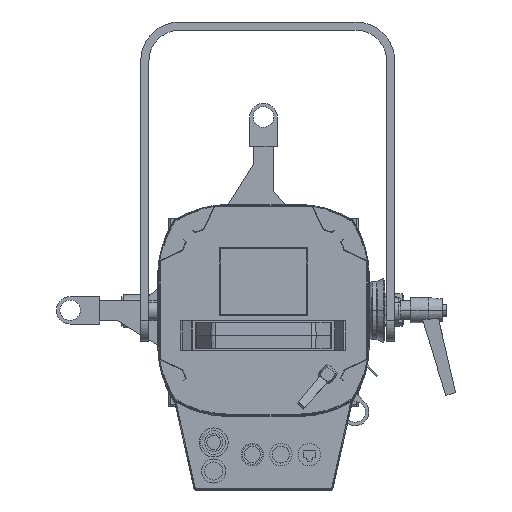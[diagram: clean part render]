
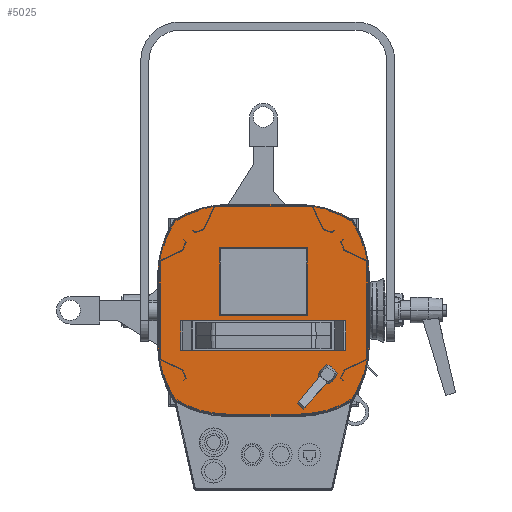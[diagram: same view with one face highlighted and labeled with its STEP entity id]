
A CAD part, top view. The second image highlights one B-rep face of the part: STEP entity #5025.
In plain terms, the highlighted planar face has unit normal (0, 0, 1).
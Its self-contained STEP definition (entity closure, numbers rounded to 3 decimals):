
#125 = EDGE_CURVE ( 'NONE', #6798, #19602, #24924, .T. ) ;
#634 = EDGE_CURVE ( 'NONE', #26735, #6798, #22968, .T. ) ;
#648 = VERTEX_POINT ( 'NONE', #13506 ) ;
#774 = CARTESIAN_POINT ( 'NONE',  ( 33., -103.8, 227.1 ) ) ;
#776 = LINE ( 'NONE', #19547, #20516 ) ;
#869 = DIRECTION ( 'NONE',  ( 0., 0., -1. ) ) ;
#976 = CIRCLE ( 'NONE', #22160, 103.8 ) ;
#1429 = DIRECTION ( 'NONE',  ( 0., -1., 0. ) ) ;
#1607 = ORIENTED_EDGE ( 'NONE', *, *, #10731, .F. ) ;
#1683 = ORIENTED_EDGE ( 'NONE', *, *, #634, .F. ) ;
#2166 = VECTOR ( 'NONE', #29851, 1000. ) ;
#2339 = CARTESIAN_POINT ( 'NONE',  ( -103.8, -33., 227.1 ) ) ;
#2901 = EDGE_CURVE ( 'NONE', #7756, #648, #28039, .T. ) ;
#3372 = CARTESIAN_POINT ( 'NONE',  ( -42.5, 14., 227.1 ) ) ;
#3452 = EDGE_LOOP ( 'NONE', ( #23249, #18070, #29393, #26924 ) ) ;
#3803 = AXIS2_PLACEMENT_3D ( 'NONE', #21998, #869, #21678 ) ;
#4211 = VERTEX_POINT ( 'NONE', #21260 ) ;
#4454 = DIRECTION ( 'NONE',  ( 0., 0., -1. ) ) ;
#4785 = CARTESIAN_POINT ( 'NONE',  ( 103.8, -33., 227.1 ) ) ;
#4834 = VERTEX_POINT ( 'NONE', #16353 ) ;
#5025 = ADVANCED_FACE ( 'NONE', ( #12802, #8316 ), #26692, .F. ) ;
#5301 = CARTESIAN_POINT ( 'NONE',  ( -88.019, 88.019, 227.1 ) ) ;
#5421 = VECTOR ( 'NONE', #21024, 1000. ) ;
#5491 = DIRECTION ( 'NONE',  ( -1., 0., 0. ) ) ;
#6006 = DIRECTION ( 'NONE',  ( 0., 0., -1. ) ) ;
#6049 = CARTESIAN_POINT ( 'NONE',  ( 42.5, -4., 227.1 ) ) ;
#6180 = DIRECTION ( 'NONE',  ( 1., 0., 0. ) ) ;
#6619 = CARTESIAN_POINT ( 'NONE',  ( 0., 33., 227.1 ) ) ;
#6798 = VERTEX_POINT ( 'NONE', #25389 ) ;
#6947 = CARTESIAN_POINT ( 'NONE',  ( 33., 103.8, 227.1 ) ) ;
#7488 = DIRECTION ( 'NONE',  ( 0., 0., -1. ) ) ;
#7756 = VERTEX_POINT ( 'NONE', #28788 ) ;
#7869 = CARTESIAN_POINT ( 'NONE',  ( 42.5, 60., 227.1 ) ) ;
#8316 = FACE_OUTER_BOUND ( 'NONE', #10381, .T. ) ;
#8370 = ORIENTED_EDGE ( 'NONE', *, *, #26615, .F. ) ;
#8473 = VECTOR ( 'NONE', #28736, 1000. ) ;
#8974 = DIRECTION ( 'NONE',  ( 0., 0., -1. ) ) ;
#9328 = CARTESIAN_POINT ( 'NONE',  ( -42.5, -4., 227.1 ) ) ;
#9378 = DIRECTION ( 'NONE',  ( 1., 0., 0. ) ) ;
#9402 = VECTOR ( 'NONE', #1429, 1000. ) ;
#10024 = CARTESIAN_POINT ( 'NONE',  ( -33., 103.8, 227.1 ) ) ;
#10185 = CIRCLE ( 'NONE', #3803, 103.8 ) ;
#10381 = EDGE_LOOP ( 'NONE', ( #1683, #19958, #29205, #12519, #1607, #8370, #20967, #19308, #24341, #16513, #19426, #29153 ) ) ;
#10731 = EDGE_CURVE ( 'NONE', #15462, #4834, #25480, .T. ) ;
#11126 = AXIS2_PLACEMENT_3D ( 'NONE', #19198, #7488, #26322 ) ;
#12519 = ORIENTED_EDGE ( 'NONE', *, *, #26031, .F. ) ;
#12776 = DIRECTION ( 'NONE',  ( 0., -1., 0. ) ) ;
#12802 = FACE_BOUND ( 'NONE', #3452, .T. ) ;
#12953 = AXIS2_PLACEMENT_3D ( 'NONE', #20507, #29624, #6180 ) ;
#13090 = EDGE_CURVE ( 'NONE', #18030, #24123, #976, .T. ) ;
#13365 = EDGE_CURVE ( 'NONE', #27970, #26407, #25518, .T. ) ;
#13399 = AXIS2_PLACEMENT_3D ( 'NONE', #14754, #19203, #5491 ) ;
#13506 = CARTESIAN_POINT ( 'NONE',  ( 103.8, 33., 227.1 ) ) ;
#13712 = EDGE_CURVE ( 'NONE', #4211, #18030, #10185, .T. ) ;
#13921 = DIRECTION ( 'NONE',  ( 1., 0., 0. ) ) ;
#14754 = CARTESIAN_POINT ( 'NONE',  ( 33., 0., 227.1 ) ) ;
#14882 = CARTESIAN_POINT ( 'NONE',  ( 0., 33., 227.1 ) ) ;
#15290 = AXIS2_PLACEMENT_3D ( 'NONE', #15568, #6006, #17415 ) ;
#15355 = LINE ( 'NONE', #20426, #2166 ) ;
#15462 = VERTEX_POINT ( 'NONE', #10024 ) ;
#15568 = CARTESIAN_POINT ( 'NONE',  ( 0., -33., 227.1 ) ) ;
#16026 = DIRECTION ( 'NONE',  ( -1., 0., 0. ) ) ;
#16088 = VERTEX_POINT ( 'NONE', #23818 ) ;
#16353 = CARTESIAN_POINT ( 'NONE',  ( 33., 103.8, 227.1 ) ) ;
#16513 = ORIENTED_EDGE ( 'NONE', *, *, #13712, .F. ) ;
#17134 = AXIS2_PLACEMENT_3D ( 'NONE', #6619, #22986, #16026 ) ;
#17140 = VECTOR ( 'NONE', #30109, 1000. ) ;
#17253 = DIRECTION ( 'NONE',  ( 0., 1., 0. ) ) ;
#17415 = DIRECTION ( 'NONE',  ( -1., 0., 0. ) ) ;
#17507 = VECTOR ( 'NONE', #18651, 1000. ) ;
#17877 = VERTEX_POINT ( 'NONE', #6049 ) ;
#17888 = LINE ( 'NONE', #23002, #9402 ) ;
#17996 = LINE ( 'NONE', #3372, #19038 ) ;
#18030 = VERTEX_POINT ( 'NONE', #28845 ) ;
#18070 = ORIENTED_EDGE ( 'NONE', *, *, #18966, .F. ) ;
#18092 = VERTEX_POINT ( 'NONE', #7869 ) ;
#18651 = DIRECTION ( 'NONE',  ( 1., 0., 0. ) ) ;
#18817 = CARTESIAN_POINT ( 'NONE',  ( 0., -33., 227.1 ) ) ;
#18966 = EDGE_CURVE ( 'NONE', #18092, #16088, #15355, .T. ) ;
#19038 = VECTOR ( 'NONE', #12776, 1000. ) ;
#19198 = CARTESIAN_POINT ( 'NONE',  ( 0., -33., 227.1 ) ) ;
#19203 = DIRECTION ( 'NONE',  ( 0., 0., -1. ) ) ;
#19308 = ORIENTED_EDGE ( 'NONE', *, *, #23079, .F. ) ;
#19315 = LINE ( 'NONE', #22547, #8473 ) ;
#19426 = ORIENTED_EDGE ( 'NONE', *, *, #26457, .F. ) ;
#19547 = CARTESIAN_POINT ( 'NONE',  ( -103.8, -33., 227.1 ) ) ;
#19602 = VERTEX_POINT ( 'NONE', #774 ) ;
#19958 = ORIENTED_EDGE ( 'NONE', *, *, #24003, .F. ) ;
#20426 = CARTESIAN_POINT ( 'NONE',  ( 2.5, 60., 227.1 ) ) ;
#20507 = CARTESIAN_POINT ( 'NONE',  ( -33., 0., 227.1 ) ) ;
#20516 = VECTOR ( 'NONE', #17253, 1000. ) ;
#20695 = LINE ( 'NONE', #28101, #17140 ) ;
#20842 = CARTESIAN_POINT ( 'NONE',  ( 33., 0., 227.1 ) ) ;
#20967 = ORIENTED_EDGE ( 'NONE', *, *, #13365, .F. ) ;
#21024 = DIRECTION ( 'NONE',  ( 0., 1., 0. ) ) ;
#21260 = CARTESIAN_POINT ( 'NONE',  ( -33., -103.8, 227.1 ) ) ;
#21468 = DIRECTION ( 'NONE',  ( 0., 0., -1. ) ) ;
#21678 = DIRECTION ( 'NONE',  ( -1., 0., 0. ) ) ;
#21942 = EDGE_CURVE ( 'NONE', #16088, #23703, #17996, .T. ) ;
#21998 = CARTESIAN_POINT ( 'NONE',  ( -33., 0., 227.1 ) ) ;
#22160 = AXIS2_PLACEMENT_3D ( 'NONE', #18817, #21468, #13921 ) ;
#22547 = CARTESIAN_POINT ( 'NONE',  ( 33., -103.8, 227.1 ) ) ;
#22968 = CIRCLE ( 'NONE', #11126, 103.8 ) ;
#22986 = DIRECTION ( 'NONE',  ( 0., 0., -1. ) ) ;
#23002 = CARTESIAN_POINT ( 'NONE',  ( 103.8, -33., 227.1 ) ) ;
#23079 = EDGE_CURVE ( 'NONE', #24123, #27970, #776, .T. ) ;
#23249 = ORIENTED_EDGE ( 'NONE', *, *, #21942, .F. ) ;
#23703 = VERTEX_POINT ( 'NONE', #9328 ) ;
#23818 = CARTESIAN_POINT ( 'NONE',  ( -42.5, 60., 227.1 ) ) ;
#24003 = EDGE_CURVE ( 'NONE', #648, #26735, #17888, .T. ) ;
#24123 = VERTEX_POINT ( 'NONE', #2339 ) ;
#24341 = ORIENTED_EDGE ( 'NONE', *, *, #13090, .F. ) ;
#24924 = CIRCLE ( 'NONE', #29339, 103.8 ) ;
#25389 = CARTESIAN_POINT ( 'NONE',  ( 88.019, -88.019, 227.1 ) ) ;
#25480 = LINE ( 'NONE', #6947, #17507 ) ;
#25518 = CIRCLE ( 'NONE', #17134, 103.8 ) ;
#25739 = CIRCLE ( 'NONE', #12953, 103.8 ) ;
#26031 = EDGE_CURVE ( 'NONE', #4834, #7756, #28155, .T. ) ;
#26322 = DIRECTION ( 'NONE',  ( -1., 0., 0. ) ) ;
#26407 = VERTEX_POINT ( 'NONE', #5301 ) ;
#26457 = EDGE_CURVE ( 'NONE', #19602, #4211, #19315, .T. ) ;
#26615 = EDGE_CURVE ( 'NONE', #26407, #15462, #25739, .T. ) ;
#26692 = PLANE ( 'NONE',  #15290 ) ;
#26735 = VERTEX_POINT ( 'NONE', #4785 ) ;
#26924 = ORIENTED_EDGE ( 'NONE', *, *, #29255, .F. ) ;
#27941 = DIRECTION ( 'NONE',  ( 1., 0., 0. ) ) ;
#27962 = LINE ( 'NONE', #29960, #5421 ) ;
#27970 = VERTEX_POINT ( 'NONE', #28863 ) ;
#28039 = CIRCLE ( 'NONE', #30510, 103.8 ) ;
#28101 = CARTESIAN_POINT ( 'NONE',  ( -42.5, -4., 227.1 ) ) ;
#28155 = CIRCLE ( 'NONE', #13399, 103.8 ) ;
#28736 = DIRECTION ( 'NONE',  ( -1., 0., 0. ) ) ;
#28788 = CARTESIAN_POINT ( 'NONE',  ( 88.019, 88.019, 227.1 ) ) ;
#28845 = CARTESIAN_POINT ( 'NONE',  ( -88.019, -88.019, 227.1 ) ) ;
#28863 = CARTESIAN_POINT ( 'NONE',  ( -103.8, 33., 227.1 ) ) ;
#29153 = ORIENTED_EDGE ( 'NONE', *, *, #125, .F. ) ;
#29205 = ORIENTED_EDGE ( 'NONE', *, *, #2901, .F. ) ;
#29255 = EDGE_CURVE ( 'NONE', #23703, #17877, #20695, .T. ) ;
#29339 = AXIS2_PLACEMENT_3D ( 'NONE', #20842, #8974, #27941 ) ;
#29393 = ORIENTED_EDGE ( 'NONE', *, *, #30397, .F. ) ;
#29624 = DIRECTION ( 'NONE',  ( 0., 0., -1. ) ) ;
#29851 = DIRECTION ( 'NONE',  ( -1., 0., 0. ) ) ;
#29960 = CARTESIAN_POINT ( 'NONE',  ( 42.5, 60., 227.1 ) ) ;
#30109 = DIRECTION ( 'NONE',  ( 1., 0., 0. ) ) ;
#30397 = EDGE_CURVE ( 'NONE', #17877, #18092, #27962, .T. ) ;
#30510 = AXIS2_PLACEMENT_3D ( 'NONE', #14882, #4454, #9378 ) ;
